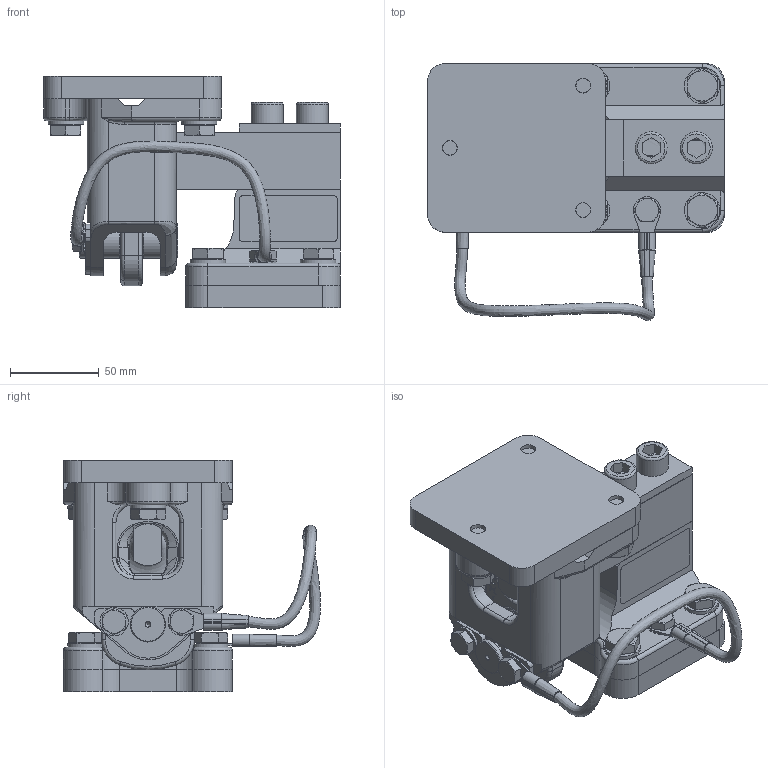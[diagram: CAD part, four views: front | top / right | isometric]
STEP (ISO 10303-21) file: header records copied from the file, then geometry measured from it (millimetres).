
FILE_DESCRIPTION(/* description */ ('SAMEL-2CFX'),/* implementation_level */ '2;1');
FILE_NAME(/* name */ '0512CC.stp',/* time_stamp */ '2025-09-09T08:08:13-03:00',/* author */ ('zanirato'),/* organization */ (''),/* preprocessor_version */ 'ST-DEVELOPER v20',/* originating_system */ 'Autodesk Inventor 2024',/* authorisation */ '');
FILE_SCHEMA (('AUTOMOTIVE_DESIGN { 1 0 10303 214 3 1 1 }'));
Length unit declared in the file: millimetre
Products named in the file (23): 0512CC; 0515CC; 0512CC_Célula de carga L250 a L2T_Phantom; PARAF CAB CIL ALLEN M12X55 DIN912 ORGA; ARRUELA DENTADA A8.4 DIN6798A INOX; ARRUELA LISA A8.4 DIN125 INOX; ARRUELA LISA A10.5 DIN125 INOX; 0381CC; 0111CC; 0058CC; 0513CC; 0416CC; 0517CC;  _1; 0059CE; TERMINAL OLHAL OL5507 - M8; ESPAGUETE TERMO RETRATIL_0059CE; 0118AF; 0512CC.Harness1; 0512CC.Harness1_1; 0518CC; 0520CC
Assembly tree (41 placements, depth 3):
  0512CC
    0515CC
    0512CC_Célula de carga L250 a L2T_Phantom
    ARRUELA LISA A10.5 DIN125 INOX  x7
    PARAF CAB CIL ALLEN M12X55 DIN912 ORGA  x2
       x7
    ARRUELA DENTADA A8.4 DIN6798A INOX  x2
     _1  x3
    ARRUELA LISA A8.4 DIN125 INOX
    0381CC
      0111CC
    0058CC
    0513CC
    0416CC
    0517CC
    0059CE
      TERMINAL OLHAL OL5507 - M8  x2
      ESPAGUETE TERMO RETRATIL_0059CE  x2
    0118AF  x2
    0512CC.Harness1
      0512CC.Harness1_1
    0518CC
    0520CC
Bounding box: 166.9 x 144.56 x 130.4 mm (x, y, z)
Volume: 745871 mm3; surface area: 199643.8 mm2
Topology: 37 solids, 38 shells, 1136 faces, 2840 edges, 1803 vertices
Faces by surface type: plane 498, cylinder 398, cone 89, bspline 86, torus 63, sphere 2
Full cylindrical faces by diameter (mm): 6.647 x3, 8 x6, 8.3 x2, 8.376 x7, 8.4 x3, 9 x2, 9.188 x7, 10 x7, 10.106 x2, 10.2 x7, 10.5 x7, 11.6 x3, 12 x2, 12.5 x2, 13 x2, 14 x1, 15.4 x7, 16 x1, 18 x2, 19.9 x3, 20 x9
Entity records: 29389 total; most frequent: CARTESIAN_POINT 8925, ORIENTED_EDGE 4052, DIRECTION 4012, EDGE_CURVE 2027, AXIS2_PLACEMENT_3D 1464, VERTEX_POINT 1294, LINE 1084, VECTOR 1084
